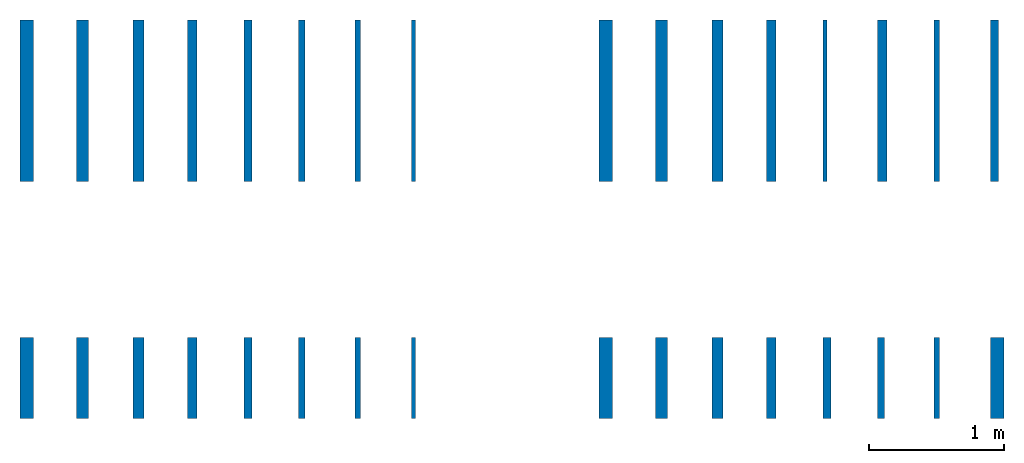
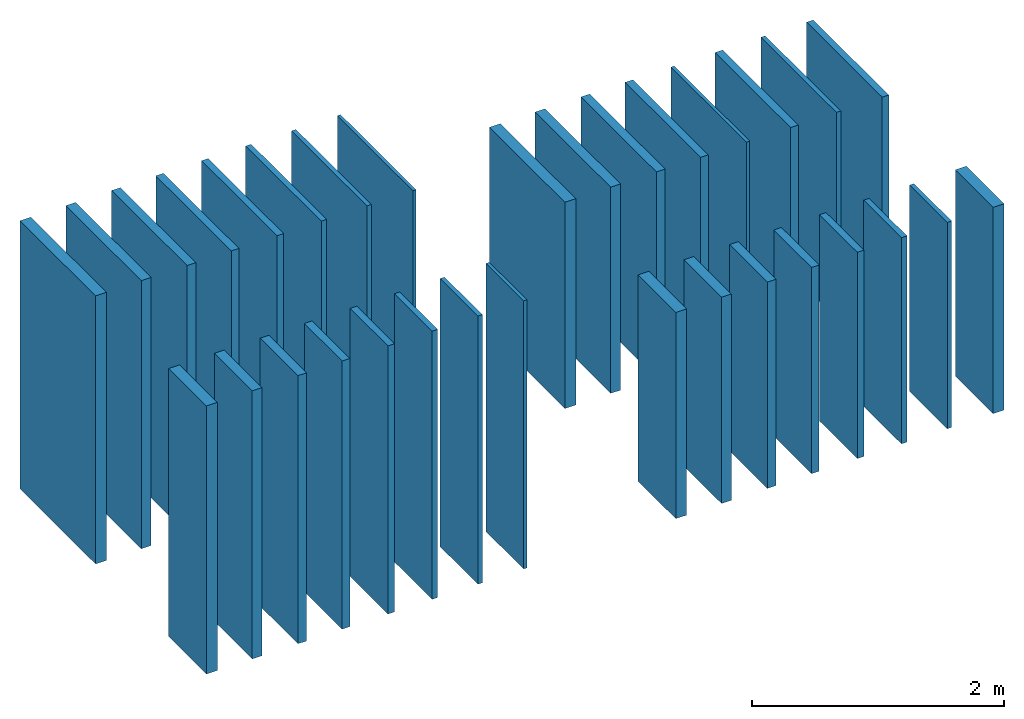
# One storey: 32 walls.
"""IFC2X3 building model written with IfcOpenShell, lengths in metres."""

from ifc_helpers import new_model, entity, si_unit, converted_unit, derived_unit, direction, frame, frame_2d, origin, place, context, subcontext, project, spatial, rectangle, extrude, material, layer, layer_set, layer_usage, type_object, element, save


model = new_model("IFC2X3")

# Units and contexts
model_context = context("Model", 3, precision=1e-05, world=origin(), true_north=direction((6.12303176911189e-17, 1.0)))
body_context = subcontext(model_context, "Body", "Model", "MODEL_VIEW")
ifc_project = project(units=[si_unit("LENGTHUNIT", "METRE"), si_unit("AREAUNIT", "SQUARE_METRE"), si_unit("VOLUMEUNIT", "CUBIC_METRE"), converted_unit("PLANEANGLEUNIT", "DEGREE", entity("IfcRatioMeasure", 0.0174532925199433), si_unit("PLANEANGLEUNIT", "RADIAN"), dimensions=[0, 0, 0, 0, 0, 0, 0]), si_unit("MASSUNIT", "GRAM", prefix="KILO"), derived_unit("MASSDENSITYUNIT", [(si_unit("MASSUNIT", "GRAM", prefix="KILO"), 1), (si_unit("LENGTHUNIT", "METRE"), -3)]), si_unit("TIMEUNIT", "SECOND"), si_unit("FREQUENCYUNIT", "HERTZ"), si_unit("THERMODYNAMICTEMPERATUREUNIT", "DEGREE_CELSIUS"), derived_unit("THERMALTRANSMITTANCEUNIT", [(si_unit("MASSUNIT", "GRAM", prefix="KILO"), 1), (si_unit("THERMODYNAMICTEMPERATUREUNIT", "KELVIN"), -1), (si_unit("TIMEUNIT", "SECOND"), -3)]), derived_unit("VOLUMETRICFLOWRATEUNIT", [(si_unit("LENGTHUNIT", "METRE"), 3), (si_unit("TIMEUNIT", "SECOND"), -1)]), si_unit("ELECTRICCURRENTUNIT", "AMPERE"), si_unit("ELECTRICVOLTAGEUNIT", "VOLT"), si_unit("POWERUNIT", "WATT"), si_unit("FORCEUNIT", "NEWTON", prefix="KILO"), si_unit("ILLUMINANCEUNIT", "LUX"), si_unit("LUMINOUSFLUXUNIT", "LUMEN"), si_unit("LUMINOUSINTENSITYUNIT", "CANDELA"), derived_unit("USERDEFINED", [(si_unit("MASSUNIT", "GRAM", prefix="KILO"), -1), (si_unit("LENGTHUNIT", "METRE"), -2), (si_unit("TIMEUNIT", "SECOND"), 3), (si_unit("LUMINOUSFLUXUNIT", "LUMEN"), 1)]), derived_unit("LINEARVELOCITYUNIT", [(si_unit("LENGTHUNIT", "METRE"), 1), (si_unit("TIMEUNIT", "SECOND"), -1)]), si_unit("PRESSUREUNIT", "PASCAL"), derived_unit("USERDEFINED", [(si_unit("LENGTHUNIT", "METRE"), -2), (si_unit("MASSUNIT", "GRAM", prefix="KILO"), 1), (si_unit("TIMEUNIT", "SECOND"), -2)])], contexts=[model_context])

# Site, building, storey
site_placement = place(None, origin())
site = spatial("IfcSite", under=ifc_project, at=site_placement, Name="Default", CompositionType="ELEMENT")
building_placement = place(site_placement, origin())
building = spatial("IfcBuilding", under=site, at=building_placement, CompositionType="ELEMENT")
storey_placement = place(building_placement, origin())
storey = spatial("IfcBuildingStorey", under=building, at=storey_placement, Name="Nivel 1", CompositionType="ELEMENT", Elevation=0.0)

# Walls
ifc_material = material(Name="VALERO Grafipol® TR-30")
ifc_layer_1 = layer(ifc_material, 0.1)
ifc_layer_set_1 = layer_set([ifc_layer_1], Name="Muro básico:Grafipol TR-30_2000x600x100mm")
ifc_layer_usage_1 = layer_usage(ifc_layer_set_1, "AXIS2", "NEGATIVE", 0.05)
wall_type_1 = type_object("IfcWallType", Name="Muro básico:Grafipol TR-30_2000x600x100mm", PredefinedType="STANDARD", material=ifc_layer_set_1)
wall_1_placement = place(storey_placement, frame((-0.269987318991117, 0.176603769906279, 0.0), z_axis=(0.0, 0.0, 1.0), x_axis=(0.0, 1.0, 0.0)))
element("IfcWallStandardCase", 1, at=wall_1_placement, inside=storey, type_object=wall_type_1, material=ifc_layer_usage_1, Name="Muro básico:Grafipol TR-30_2000x600x100mm", ObjectType="Muro básico:Grafipol TR-30_2000x600x100mm", context=body_context, shape_type="SweptSolid", body=[
    extrude(rectangle(XDim=0.6, YDim=0.1, at=frame_2d((0.3, 1.04083408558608e-17), x_axis=(-1.0, 0.0))), origin(), (0.0, 0.0, 1.0), 2.0),
])
ifc_layer_2 = layer(ifc_material, 0.09)
ifc_layer_set_2 = layer_set([ifc_layer_2], Name="Muro básico:Grafipol TR-30_2000x600x90mm")
ifc_layer_usage_2 = layer_usage(ifc_layer_set_2, "AXIS2", "NEGATIVE", 0.045)
wall_type_2 = type_object("IfcWallType", Name="Muro básico:Grafipol TR-30_2000x600x90mm", PredefinedType="STANDARD", material=ifc_layer_set_2)
wall_2_placement = place(storey_placement, frame((0.145012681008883, 0.176603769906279, 0.0), z_axis=(0.0, 0.0, 1.0), x_axis=(0.0, 1.0, 0.0)))
element("IfcWallStandardCase", 2, at=wall_2_placement, inside=storey, type_object=wall_type_2, material=ifc_layer_usage_2, Name="Muro básico:Grafipol TR-30_2000x600x90mm", ObjectType="Muro básico:Grafipol TR-30_2000x600x90mm", context=body_context, shape_type="SweptSolid", body=[
    extrude(rectangle(XDim=0.6, YDim=0.09, at=frame_2d((0.3, 0.0), x_axis=(-1.0, 0.0))), origin(), (0.0, 0.0, 1.0), 2.0),
])
ifc_layer_3 = layer(ifc_material, 0.08)
ifc_layer_set_3 = layer_set([ifc_layer_3], Name="Muro básico:Grafipol TR-30_2000x600x80mm")
ifc_layer_usage_3 = layer_usage(ifc_layer_set_3, "AXIS2", "NEGATIVE", 0.04)
wall_type_3 = type_object("IfcWallType", Name="Muro básico:Grafipol TR-30_2000x600x80mm", PredefinedType="STANDARD", material=ifc_layer_set_3)
wall_3_placement = place(storey_placement, frame((0.560012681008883, 0.176603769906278, 0.0), z_axis=(0.0, 0.0, 1.0), x_axis=(0.0, 1.0, 0.0)))
element("IfcWallStandardCase", 3, at=wall_3_placement, inside=storey, type_object=wall_type_3, material=ifc_layer_usage_3, Name="Muro básico:Grafipol TR-30_2000x600x80mm", ObjectType="Muro básico:Grafipol TR-30_2000x600x80mm", context=body_context, shape_type="SweptSolid", body=[
    extrude(rectangle(XDim=0.6, YDim=0.08, at=frame_2d((0.3, -6.93889390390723e-18), x_axis=(-1.0, 0.0))), origin(), (0.0, 0.0, 1.0), 2.0),
])
ifc_layer_4 = layer(ifc_material, 0.07)
ifc_layer_set_4 = layer_set([ifc_layer_4], Name="Muro básico:Grafipol TR-30_2000x600x70mm")
ifc_layer_usage_4 = layer_usage(ifc_layer_set_4, "AXIS2", "NEGATIVE", 0.035)
wall_type_4 = type_object("IfcWallType", Name="Muro básico:Grafipol TR-30_2000x600x70mm", PredefinedType="STANDARD", material=ifc_layer_set_4)
wall_4_placement = place(storey_placement, frame((0.960012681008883, 0.176603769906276, 0.0), z_axis=(0.0, 0.0, 1.0), x_axis=(0.0, 1.0, 0.0)))
element("IfcWallStandardCase", 4, at=wall_4_placement, inside=storey, type_object=wall_type_4, material=ifc_layer_usage_4, Name="Muro básico:Grafipol TR-30_2000x600x70mm", ObjectType="Muro básico:Grafipol TR-30_2000x600x70mm", context=body_context, shape_type="SweptSolid", body=[
    extrude(rectangle(XDim=0.6, YDim=0.0700000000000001, at=frame_2d((0.3, -6.93889390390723e-18), x_axis=(-1.0, 0.0))), origin(), (0.0, 0.0, 1.0), 2.0),
])
ifc_layer_5 = layer(ifc_material, 0.06)
ifc_layer_set_5 = layer_set([ifc_layer_5], Name="Muro básico:Grafipol TR-30_2000x600x60mm")
ifc_layer_usage_5 = layer_usage(ifc_layer_set_5, "AXIS2", "NEGATIVE", 0.03)
wall_type_5 = type_object("IfcWallType", Name="Muro básico:Grafipol TR-30_2000x600x60mm", PredefinedType="STANDARD", material=ifc_layer_set_5)
wall_5_placement = place(storey_placement, frame((1.37501268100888, 0.176603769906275, 0.0), z_axis=(0.0, 0.0, 1.0), x_axis=(0.0, 1.0, 0.0)))
element("IfcWallStandardCase", 5, at=wall_5_placement, inside=storey, type_object=wall_type_5, material=ifc_layer_usage_5, Name="Muro básico:Grafipol TR-30_2000x600x60mm", ObjectType="Muro básico:Grafipol TR-30_2000x600x60mm", context=body_context, shape_type="SweptSolid", body=[
    extrude(rectangle(XDim=0.6, YDim=0.0599999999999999, at=frame_2d((0.3, -7.28583859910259e-17), x_axis=(-1.0, 0.0))), origin(), (0.0, 0.0, 1.0), 2.0),
])
ifc_layer_6 = layer(ifc_material, 0.05)
ifc_layer_set_6 = layer_set([ifc_layer_6], Name="Muro básico:Grafipol TR-30_2000x600x50mm")
ifc_layer_usage_6 = layer_usage(ifc_layer_set_6, "AXIS2", "NEGATIVE", 0.025)
wall_type_6 = type_object("IfcWallType", Name="Muro básico:Grafipol TR-30_2000x600x50mm", PredefinedType="STANDARD", material=ifc_layer_set_6)
wall_6_placement = place(storey_placement, frame((1.77501268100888, 0.176603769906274, 0.0), z_axis=(0.0, 0.0, 1.0), x_axis=(0.0, 1.0, 0.0)))
element("IfcWallStandardCase", 6, at=wall_6_placement, inside=storey, type_object=wall_type_6, material=ifc_layer_usage_6, Name="Muro básico:Grafipol TR-30_2000x600x50mm", ObjectType="Muro básico:Grafipol TR-30_2000x600x50mm", context=body_context, shape_type="SweptSolid", body=[
    extrude(rectangle(XDim=0.6, YDim=0.05, at=frame_2d((0.3, -7.45931094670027e-17), x_axis=(-1.0, 0.0))), origin(), (0.0, 0.0, 1.0), 2.0),
])
ifc_layer_7 = layer(ifc_material, 0.04)
ifc_layer_set_7 = layer_set([ifc_layer_7], Name="Muro básico:Grafipol TR-30_2000x600x40mm")
ifc_layer_usage_7 = layer_usage(ifc_layer_set_7, "AXIS2", "NEGATIVE", 0.02)
wall_type_7 = type_object("IfcWallType", Name="Muro básico:Grafipol TR-30_2000x600x40mm", PredefinedType="STANDARD", material=ifc_layer_set_7)
wall_7_placement = place(storey_placement, frame((2.19001268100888, 0.176603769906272, 0.0), z_axis=(0.0, 0.0, 1.0), x_axis=(0.0, 1.0, 0.0)))
element("IfcWallStandardCase", 7, at=wall_7_placement, inside=storey, type_object=wall_type_7, material=ifc_layer_usage_7, Name="Muro básico:Grafipol TR-30_2000x600x40mm", ObjectType="Muro básico:Grafipol TR-30_2000x600x40mm", context=body_context, shape_type="SweptSolid", body=[
    extrude(rectangle(XDim=0.6, YDim=0.0400000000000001, at=frame_2d((0.3, -7.45931094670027e-17), x_axis=(-1.0, 0.0))), origin(), (0.0, 0.0, 1.0), 2.0),
])
ifc_layer_8 = layer(ifc_material, 0.1)
ifc_layer_set_8 = layer_set([ifc_layer_8], Name="Muro básico:Grafipol TR-30_2600x1200x100mm")
ifc_layer_usage_8 = layer_usage(ifc_layer_set_8, "AXIS2", "NEGATIVE", 0.05)
wall_type_8 = type_object("IfcWallType", Name="Muro básico:Grafipol TR-30_2600x1200x100mm", PredefinedType="STANDARD", material=ifc_layer_set_8)
wall_8_placement = place(storey_placement, frame((2.64001268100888, 0.176603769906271, 0.0), z_axis=(0.0, 0.0, 1.0), x_axis=(0.0, 1.0, 0.0)))
element("IfcWallStandardCase", 8, at=wall_8_placement, inside=storey, type_object=wall_type_8, material=ifc_layer_usage_8, Name="Muro básico:Grafipol TR-30_2600x1200x100mm", ObjectType="Muro básico:Grafipol TR-30_2600x1200x100mm", context=body_context, shape_type="SweptSolid", body=[
    extrude(rectangle(XDim=0.6, YDim=0.1, at=frame_2d((0.3, -7.63278329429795e-17), x_axis=(-1.0, 0.0))), origin(), (0.0, 0.0, 1.0), 2.0),
])
ifc_layer_usage_9 = layer_usage(ifc_layer_set_8, "AXIS2", "NEGATIVE", 0.05)
wall_9_placement = place(storey_placement, frame((-0.269987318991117, 1.93757096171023, 0.0), z_axis=(0.0, 0.0, 1.0), x_axis=(0.0, 1.0, 0.0)))
element("IfcWallStandardCase", 9, at=wall_9_placement, inside=storey, type_object=wall_type_8, material=ifc_layer_usage_9, Name="Muro básico:Grafipol TR-30_2600x1200x100mm", ObjectType="Muro básico:Grafipol TR-30_2600x1200x100mm", context=body_context, shape_type="SweptSolid", body=[
    extrude(rectangle(XDim=1.2, YDim=0.1, at=frame_2d((0.6, 2.08166817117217e-17), x_axis=(-1.0, 0.0))), origin(), (0.0, 0.0, 1.0), 2.0),
])
ifc_layer_usage_10 = layer_usage(ifc_layer_set_8, "AXIS2", "NEGATIVE", 0.05)
wall_10_placement = place(storey_placement, frame((-4.57440857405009, 1.93757096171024, 0.0), z_axis=(0.0, 0.0, 1.0), x_axis=(0.0, 1.0, 0.0)))
element("IfcWallStandardCase", 10, at=wall_10_placement, inside=storey, type_object=wall_type_8, material=ifc_layer_usage_10, Name="Muro básico:Grafipol TR-30_2600x1200x100mm", ObjectType="Muro básico:Grafipol TR-30_2600x1200x100mm", context=body_context, shape_type="SweptSolid", body=[
    extrude(rectangle(XDim=1.2, YDim=0.1, at=frame_2d((0.6, -1.49186218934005e-16), x_axis=(-1.0, 0.0))), origin(), (0.0, 0.0, 1.0), 2.6),
])
ifc_layer_9 = layer(ifc_material, 0.1)
ifc_layer_set_9 = layer_set([ifc_layer_9], Name="Muro básico:Grafipol TR-30_2600x600x100mm")
ifc_layer_usage_11 = layer_usage(ifc_layer_set_9, "AXIS2", "NEGATIVE", 0.05)
wall_type_9 = type_object("IfcWallType", Name="Muro básico:Grafipol TR-30_2600x600x100mm", PredefinedType="STANDARD", material=ifc_layer_set_9)
wall_11_placement = place(storey_placement, frame((-4.57440857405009, 0.176603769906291, 0.0), z_axis=(0.0, 0.0, 1.0), x_axis=(0.0, 1.0, 0.0)))
element("IfcWallStandardCase", 11, at=wall_11_placement, inside=storey, type_object=wall_type_9, material=ifc_layer_usage_11, Name="Muro básico:Grafipol TR-30_2600x600x100mm", ObjectType="Muro básico:Grafipol TR-30_2600x600x100mm", context=body_context, shape_type="SweptSolid", body=[
    extrude(rectangle(XDim=0.6, YDim=0.1, at=frame_2d((0.3, -7.63278329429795e-17), x_axis=(-1.0, 0.0))), origin(), (0.0, 0.0, 1.0), 2.6),
])
ifc_layer_10 = layer(ifc_material, 0.09)
ifc_layer_set_10 = layer_set([ifc_layer_10], Name="Muro básico:Grafipol TR-30_2600x600x90mm")
ifc_layer_usage_12 = layer_usage(ifc_layer_set_10, "AXIS2", "NEGATIVE", 0.045)
wall_type_10 = type_object("IfcWallType", Name="Muro básico:Grafipol TR-30_2600x600x90mm", PredefinedType="STANDARD", material=ifc_layer_set_10)
wall_12_placement = place(storey_placement, frame((-4.15940857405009, 0.176603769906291, 0.0), z_axis=(0.0, 0.0, 1.0), x_axis=(0.0, 1.0, 0.0)))
element("IfcWallStandardCase", 12, at=wall_12_placement, inside=storey, type_object=wall_type_10, material=ifc_layer_usage_12, Name="Muro básico:Grafipol TR-30_2600x600x90mm", ObjectType="Muro básico:Grafipol TR-30_2600x600x90mm", context=body_context, shape_type="SweptSolid", body=[
    extrude(rectangle(XDim=0.6, YDim=0.0900000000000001, at=frame_2d((0.3, -7.63278329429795e-17), x_axis=(-1.0, 0.0))), origin(), (0.0, 0.0, 1.0), 2.6),
])
ifc_layer_11 = layer(ifc_material, 0.08)
ifc_layer_set_11 = layer_set([ifc_layer_11], Name="Muro básico:Grafipol TR-30_2600x600x80mm")
ifc_layer_usage_13 = layer_usage(ifc_layer_set_11, "AXIS2", "NEGATIVE", 0.04)
wall_type_11 = type_object("IfcWallType", Name="Muro básico:Grafipol TR-30_2600x600x80mm", PredefinedType="STANDARD", material=ifc_layer_set_11)
wall_13_placement = place(storey_placement, frame((-3.74440857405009, 0.17660376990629, 0.0), z_axis=(0.0, 0.0, 1.0), x_axis=(0.0, 1.0, 0.0)))
element("IfcWallStandardCase", 13, at=wall_13_placement, inside=storey, type_object=wall_type_11, material=ifc_layer_usage_13, Name="Muro básico:Grafipol TR-30_2600x600x80mm", ObjectType="Muro básico:Grafipol TR-30_2600x600x80mm", context=body_context, shape_type="SweptSolid", body=[
    extrude(rectangle(XDim=0.6, YDim=0.0800000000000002, at=frame_2d((0.3, -7.63278329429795e-17), x_axis=(-1.0, 0.0))), origin(), (0.0, 0.0, 1.0), 2.6),
])
ifc_layer_12 = layer(ifc_material, 0.07)
ifc_layer_set_12 = layer_set([ifc_layer_12], Name="Muro básico:Grafipol TR-30_2600x600x70mm")
ifc_layer_usage_14 = layer_usage(ifc_layer_set_12, "AXIS2", "NEGATIVE", 0.035)
wall_type_12 = type_object("IfcWallType", Name="Muro básico:Grafipol TR-30_2600x600x70mm", PredefinedType="STANDARD", material=ifc_layer_set_12)
wall_14_placement = place(storey_placement, frame((-3.34440857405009, 0.176603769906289, 0.0), z_axis=(0.0, 0.0, 1.0), x_axis=(0.0, 1.0, 0.0)))
element("IfcWallStandardCase", 14, at=wall_14_placement, inside=storey, type_object=wall_type_12, material=ifc_layer_usage_14, Name="Muro básico:Grafipol TR-30_2600x600x70mm", ObjectType="Muro básico:Grafipol TR-30_2600x600x70mm", context=body_context, shape_type="SweptSolid", body=[
    extrude(rectangle(XDim=0.6, YDim=0.0700000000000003, at=frame_2d((0.3, -7.28583859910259e-17), x_axis=(-1.0, 0.0))), origin(), (0.0, 0.0, 1.0), 2.6),
])
ifc_layer_usage_15 = layer_usage(ifc_layer_set_12, "AXIS2", "NEGATIVE", 0.035)
wall_15_placement = place(storey_placement, frame((1.78501268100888, 1.93757096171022, 0.0), z_axis=(0.0, 0.0, 1.0), x_axis=(0.0, 1.0, 0.0)))
element("IfcWallStandardCase", 15, at=wall_15_placement, inside=storey, type_object=wall_type_12, material=ifc_layer_usage_15, Name="Muro básico:Grafipol TR-30_2600x600x70mm", ObjectType="Muro básico:Grafipol TR-30_2600x600x70mm", context=body_context, shape_type="SweptSolid", body=[
    extrude(rectangle(XDim=1.2, YDim=0.0699999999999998, at=frame_2d((0.6, -1.38777878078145e-17), x_axis=(-1.0, 0.0))), origin(), (0.0, 0.0, 1.0), 2.0),
])
ifc_layer_13 = layer(ifc_material, 0.06)
ifc_layer_set_13 = layer_set([ifc_layer_13], Name="Muro básico:Grafipol TR-30_2600x600x60mm")
ifc_layer_usage_16 = layer_usage(ifc_layer_set_13, "AXIS2", "NEGATIVE", 0.03)
wall_type_13 = type_object("IfcWallType", Name="Muro básico:Grafipol TR-30_2600x600x60mm", PredefinedType="STANDARD", material=ifc_layer_set_13)
wall_16_placement = place(storey_placement, frame((-2.92940857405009, 0.176603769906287, 0.0), z_axis=(0.0, 0.0, 1.0), x_axis=(0.0, 1.0, 0.0)))
element("IfcWallStandardCase", 16, at=wall_16_placement, inside=storey, type_object=wall_type_13, material=ifc_layer_usage_16, Name="Muro básico:Grafipol TR-30_2600x600x60mm", ObjectType="Muro básico:Grafipol TR-30_2600x600x60mm", context=body_context, shape_type="SweptSolid", body=[
    extrude(rectangle(XDim=0.6, YDim=0.0600000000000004, at=frame_2d((0.3, -7.28583859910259e-17), x_axis=(-1.0, 0.0))), origin(), (0.0, 0.0, 1.0), 2.6),
])
ifc_layer_usage_17 = layer_usage(ifc_layer_set_13, "AXIS2", "NEGATIVE", 0.03)
wall_17_placement = place(storey_placement, frame((2.62001268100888, 1.93757096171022, 0.0), z_axis=(0.0, 0.0, 1.0), x_axis=(0.0, 1.0, 0.0)))
element("IfcWallStandardCase", 17, at=wall_17_placement, inside=storey, type_object=wall_type_13, material=ifc_layer_usage_17, Name="Muro básico:Grafipol TR-30_2600x600x60mm", ObjectType="Muro básico:Grafipol TR-30_2600x600x60mm", context=body_context, shape_type="SweptSolid", body=[
    extrude(rectangle(XDim=1.2, YDim=0.0600000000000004, at=frame_2d((0.6, -1.49186218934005e-16), x_axis=(-1.0, 0.0))), origin(), (0.0, 0.0, 1.0), 2.0),
])
ifc_layer_14 = layer(ifc_material, 0.05)
ifc_layer_set_14 = layer_set([ifc_layer_14], Name="Muro básico:Grafipol TR-30_2600x600x50mm")
ifc_layer_usage_18 = layer_usage(ifc_layer_set_14, "AXIS2", "NEGATIVE", 0.025)
wall_type_14 = type_object("IfcWallType", Name="Muro básico:Grafipol TR-30_2600x600x50mm", PredefinedType="STANDARD", material=ifc_layer_set_14)
wall_18_placement = place(storey_placement, frame((-2.52940857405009, 0.176603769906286, 0.0), z_axis=(0.0, 0.0, 1.0), x_axis=(0.0, 1.0, 0.0)))
element("IfcWallStandardCase", 18, at=wall_18_placement, inside=storey, type_object=wall_type_14, material=ifc_layer_usage_18, Name="Muro básico:Grafipol TR-30_2600x600x50mm", ObjectType="Muro básico:Grafipol TR-30_2600x600x50mm", context=body_context, shape_type="SweptSolid", body=[
    extrude(rectangle(XDim=0.6, YDim=0.0500000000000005, at=frame_2d((0.3, -7.28583859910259e-17), x_axis=(-1.0, 0.0))), origin(), (0.0, 0.0, 1.0), 2.6),
])
ifc_layer_15 = layer(ifc_material, 0.04)
ifc_layer_set_15 = layer_set([ifc_layer_15], Name="Muro básico:Grafipol TR-30_2600x600x40mm")
ifc_layer_usage_19 = layer_usage(ifc_layer_set_15, "AXIS2", "NEGATIVE", 0.02)
wall_type_15 = type_object("IfcWallType", Name="Muro básico:Grafipol TR-30_2600x600x40mm", PredefinedType="STANDARD", material=ifc_layer_set_15)
wall_19_placement = place(storey_placement, frame((-2.11440857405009, 0.176603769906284, 0.0), z_axis=(0.0, 0.0, 1.0), x_axis=(0.0, 1.0, 0.0)))
element("IfcWallStandardCase", 19, at=wall_19_placement, inside=storey, type_object=wall_type_15, material=ifc_layer_usage_19, Name="Muro básico:Grafipol TR-30_2600x600x40mm", ObjectType="Muro básico:Grafipol TR-30_2600x600x40mm", context=body_context, shape_type="SweptSolid", body=[
    extrude(rectangle(XDim=0.6, YDim=0.0400000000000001, at=frame_2d((0.3, -7.45931094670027e-17), x_axis=(-1.0, 0.0))), origin(), (0.0, 0.0, 1.0), 2.6),
])
ifc_layer_16 = layer(ifc_material, 0.03)
ifc_layer_set_16 = layer_set([ifc_layer_16], Name="Muro básico:Grafipol TR-30_2600x600x30mm")
ifc_layer_usage_20 = layer_usage(ifc_layer_set_16, "AXIS2", "NEGATIVE", 0.015)
wall_type_16 = type_object("IfcWallType", Name="Muro básico:Grafipol TR-30_2600x600x30mm", PredefinedType="STANDARD", material=ifc_layer_set_16)
wall_20_placement = place(storey_placement, frame((-1.69940857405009, 0.176603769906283, 0.0), z_axis=(0.0, 0.0, 1.0), x_axis=(0.0, 1.0, 0.0)))
element("IfcWallStandardCase", 20, at=wall_20_placement, inside=storey, type_object=wall_type_16, material=ifc_layer_usage_20, Name="Muro básico:Grafipol TR-30_2600x600x30mm", ObjectType="Muro básico:Grafipol TR-30_2600x600x30mm", context=body_context, shape_type="SweptSolid", body=[
    extrude(rectangle(XDim=0.6, YDim=0.0300000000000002, at=frame_2d((0.3, -7.45931094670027e-17), x_axis=(-1.0, 0.0))), origin(), (0.0, 0.0, 1.0), 2.6),
])
ifc_layer_17 = layer(ifc_material, 0.09)
ifc_layer_set_17 = layer_set([ifc_layer_17], Name="Muro básico:Grafipol TR-30_2000x1200x90mm")
ifc_layer_usage_21 = layer_usage(ifc_layer_set_17, "AXIS2", "NEGATIVE", 0.045)
wall_type_17 = type_object("IfcWallType", Name="Muro básico:Grafipol TR-30_2000x1200x90mm", PredefinedType="STANDARD", material=ifc_layer_set_17)
wall_21_placement = place(storey_placement, frame((0.145012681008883, 1.93757096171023, 0.0), z_axis=(0.0, 0.0, 1.0), x_axis=(0.0, 1.0, 0.0)))
element("IfcWallStandardCase", 21, at=wall_21_placement, inside=storey, type_object=wall_type_17, material=ifc_layer_usage_21, Name="Muro básico:Grafipol TR-30_2000x1200x90mm", ObjectType="Muro básico:Grafipol TR-30_2000x1200x90mm", context=body_context, shape_type="SweptSolid", body=[
    extrude(rectangle(XDim=1.2, YDim=0.09, at=frame_2d((0.6, 3.46944695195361e-18), x_axis=(-1.0, 0.0))), origin(), (0.0, 0.0, 1.0), 2.0),
])
ifc_layer_18 = layer(ifc_material, 0.08)
ifc_layer_set_18 = layer_set([ifc_layer_18], Name="Muro básico:Grafipol TR-30_2000x1200x80mm")
ifc_layer_usage_22 = layer_usage(ifc_layer_set_18, "AXIS2", "NEGATIVE", 0.04)
wall_type_18 = type_object("IfcWallType", Name="Muro básico:Grafipol TR-30_2000x1200x80mm", PredefinedType="STANDARD", material=ifc_layer_set_18)
wall_22_placement = place(storey_placement, frame((0.560012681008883, 1.93757096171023, 0.0), z_axis=(0.0, 0.0, 1.0), x_axis=(0.0, 1.0, 0.0)))
element("IfcWallStandardCase", 22, at=wall_22_placement, inside=storey, type_object=wall_type_18, material=ifc_layer_usage_22, Name="Muro básico:Grafipol TR-30_2000x1200x80mm", ObjectType="Muro básico:Grafipol TR-30_2000x1200x80mm", context=body_context, shape_type="SweptSolid", body=[
    extrude(rectangle(XDim=1.2, YDim=0.08, at=frame_2d((0.6, -1.04083408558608e-17), x_axis=(-1.0, 0.0))), origin(), (0.0, 0.0, 1.0), 2.0),
])
ifc_layer_19 = layer(ifc_material, 0.07)
ifc_layer_set_19 = layer_set([ifc_layer_19], Name="Muro básico:Grafipol TR-30_2000x1200x70mm")
ifc_layer_usage_23 = layer_usage(ifc_layer_set_19, "AXIS2", "NEGATIVE", 0.035)
wall_type_19 = type_object("IfcWallType", Name="Muro básico:Grafipol TR-30_2000x1200x70mm", PredefinedType="STANDARD", material=ifc_layer_set_19)
wall_23_placement = place(storey_placement, frame((0.960012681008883, 1.93757096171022, 0.0), z_axis=(0.0, 0.0, 1.0), x_axis=(0.0, 1.0, 0.0)))
element("IfcWallStandardCase", 23, at=wall_23_placement, inside=storey, type_object=wall_type_19, material=ifc_layer_usage_23, Name="Muro básico:Grafipol TR-30_2000x1200x70mm", ObjectType="Muro básico:Grafipol TR-30_2000x1200x70mm", context=body_context, shape_type="SweptSolid", body=[
    extrude(rectangle(XDim=1.2, YDim=0.0700000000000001, at=frame_2d((0.6, -1.38777878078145e-17), x_axis=(-1.0, 0.0))), origin(), (0.0, 0.0, 1.0), 2.0),
])
ifc_layer_20 = layer(ifc_material, 0.03)
ifc_layer_set_20 = layer_set([ifc_layer_20], Name="Muro básico:Grafipol TR-30_2600x1200x30mm")
ifc_layer_usage_24 = layer_usage(ifc_layer_set_20, "AXIS2", "NEGATIVE", 0.015)
wall_type_20 = type_object("IfcWallType", Name="Muro básico:Grafipol TR-30_2600x1200x30mm", PredefinedType="STANDARD", material=ifc_layer_set_20)
wall_24_placement = place(storey_placement, frame((1.36001268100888, 1.93757096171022, 0.0), z_axis=(0.0, 0.0, 1.0), x_axis=(0.0, 1.0, 0.0)))
element("IfcWallStandardCase", 24, at=wall_24_placement, inside=storey, type_object=wall_type_20, material=ifc_layer_usage_24, Name="Muro básico:Grafipol TR-30_2600x1200x30mm", ObjectType="Muro básico:Grafipol TR-30_2600x1200x30mm", context=body_context, shape_type="SweptSolid", body=[
    extrude(rectangle(XDim=1.2, YDim=0.0300000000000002, at=frame_2d((0.6, -1.47451495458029e-17), x_axis=(-1.0, 0.0))), origin(), (0.0, 0.0, 1.0), 2.0),
])
ifc_layer_usage_25 = layer_usage(ifc_layer_set_20, "AXIS2", "NEGATIVE", 0.015)
wall_25_placement = place(storey_placement, frame((-1.69940857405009, 1.93757096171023, 0.0), z_axis=(0.0, 0.0, 1.0), x_axis=(0.0, 1.0, 0.0)))
element("IfcWallStandardCase", 25, at=wall_25_placement, inside=storey, type_object=wall_type_20, material=ifc_layer_usage_25, Name="Muro básico:Grafipol TR-30_2600x1200x30mm", ObjectType="Muro básico:Grafipol TR-30_2600x1200x30mm", context=body_context, shape_type="SweptSolid", body=[
    extrude(rectangle(XDim=1.2, YDim=0.0300000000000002, at=frame_2d((0.6, -1.47451495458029e-17), x_axis=(-1.0, 0.0))), origin(), (0.0, 0.0, 1.0), 2.6),
])
ifc_layer_21 = layer(ifc_material, 0.04)
ifc_layer_set_21 = layer_set([ifc_layer_21], Name="Muro básico:Grafipol TR-30_2000x1200x40mm")
ifc_layer_usage_26 = layer_usage(ifc_layer_set_21, "AXIS2", "NEGATIVE", 0.02)
wall_type_21 = type_object("IfcWallType", Name="Muro básico:Grafipol TR-30_2000x1200x40mm", PredefinedType="STANDARD", material=ifc_layer_set_21)
wall_26_placement = place(storey_placement, frame((2.19001268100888, 1.93757096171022, 0.0), z_axis=(0.0, 0.0, 1.0), x_axis=(0.0, 1.0, 0.0)))
element("IfcWallStandardCase", 26, at=wall_26_placement, inside=storey, type_object=wall_type_21, material=ifc_layer_usage_26, Name="Muro básico:Grafipol TR-30_2000x1200x40mm", ObjectType="Muro básico:Grafipol TR-30_2000x1200x40mm", context=body_context, shape_type="SweptSolid", body=[
    extrude(rectangle(XDim=1.2, YDim=0.0400000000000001, at=frame_2d((0.6, -1.56125112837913e-17), x_axis=(-1.0, 0.0))), origin(), (0.0, 0.0, 1.0), 2.0),
])
ifc_layer_22 = layer(ifc_material, 0.09)
ifc_layer_set_22 = layer_set([ifc_layer_22], Name="Muro básico:Grafipol TR-30_2600x1200x90mm")
ifc_layer_usage_27 = layer_usage(ifc_layer_set_22, "AXIS2", "NEGATIVE", 0.045)
wall_type_22 = type_object("IfcWallType", Name="Muro básico:Grafipol TR-30_2600x1200x90mm", PredefinedType="STANDARD", material=ifc_layer_set_22)
wall_27_placement = place(storey_placement, frame((-4.15940857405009, 1.93757096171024, 0.0), z_axis=(0.0, 0.0, 1.0), x_axis=(0.0, 1.0, 0.0)))
element("IfcWallStandardCase", 27, at=wall_27_placement, inside=storey, type_object=wall_type_22, material=ifc_layer_usage_27, Name="Muro básico:Grafipol TR-30_2600x1200x90mm", ObjectType="Muro básico:Grafipol TR-30_2600x1200x90mm", context=body_context, shape_type="SweptSolid", body=[
    extrude(rectangle(XDim=1.2, YDim=0.0900000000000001, at=frame_2d((0.6, -1.49186218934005e-16), x_axis=(-1.0, 0.0))), origin(), (0.0, 0.0, 1.0), 2.6),
])
ifc_layer_23 = layer(ifc_material, 0.08)
ifc_layer_set_23 = layer_set([ifc_layer_23], Name="Muro básico:Grafipol TR-30_2600x1200x80mm")
ifc_layer_usage_28 = layer_usage(ifc_layer_set_23, "AXIS2", "NEGATIVE", 0.04)
wall_type_23 = type_object("IfcWallType", Name="Muro básico:Grafipol TR-30_2600x1200x80mm", PredefinedType="STANDARD", material=ifc_layer_set_23)
wall_28_placement = place(storey_placement, frame((-3.74440857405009, 1.93757096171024, 0.0), z_axis=(0.0, 0.0, 1.0), x_axis=(0.0, 1.0, 0.0)))
element("IfcWallStandardCase", 28, at=wall_28_placement, inside=storey, type_object=wall_type_23, material=ifc_layer_usage_28, Name="Muro básico:Grafipol TR-30_2600x1200x80mm", ObjectType="Muro básico:Grafipol TR-30_2600x1200x80mm", context=body_context, shape_type="SweptSolid", body=[
    extrude(rectangle(XDim=1.2, YDim=0.0800000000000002, at=frame_2d((0.6, -1.49186218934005e-16), x_axis=(-1.0, 0.0))), origin(), (0.0, 0.0, 1.0), 2.6),
])
ifc_layer_24 = layer(ifc_material, 0.07)
ifc_layer_set_24 = layer_set([ifc_layer_24], Name="Muro básico:Grafipol TR-30_2600x1200x70mm")
ifc_layer_usage_29 = layer_usage(ifc_layer_set_24, "AXIS2", "NEGATIVE", 0.035)
wall_type_24 = type_object("IfcWallType", Name="Muro básico:Grafipol TR-30_2600x1200x70mm", PredefinedType="STANDARD", material=ifc_layer_set_24)
wall_29_placement = place(storey_placement, frame((-3.34440857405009, 1.93757096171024, 0.0), z_axis=(0.0, 0.0, 1.0), x_axis=(0.0, 1.0, 0.0)))
element("IfcWallStandardCase", 29, at=wall_29_placement, inside=storey, type_object=wall_type_24, material=ifc_layer_usage_29, Name="Muro básico:Grafipol TR-30_2600x1200x70mm", ObjectType="Muro básico:Grafipol TR-30_2600x1200x70mm", context=body_context, shape_type="SweptSolid", body=[
    extrude(rectangle(XDim=1.2, YDim=0.0700000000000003, at=frame_2d((0.6, -1.49186218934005e-16), x_axis=(-1.0, 0.0))), origin(), (0.0, 0.0, 1.0), 2.6),
])
ifc_layer_25 = layer(ifc_material, 0.06)
ifc_layer_set_25 = layer_set([ifc_layer_25], Name="Muro básico:Grafipol TR-30_2600x1200x60mm")
ifc_layer_usage_30 = layer_usage(ifc_layer_set_25, "AXIS2", "NEGATIVE", 0.03)
wall_type_25 = type_object("IfcWallType", Name="Muro básico:Grafipol TR-30_2600x1200x60mm", PredefinedType="STANDARD", material=ifc_layer_set_25)
wall_30_placement = place(storey_placement, frame((-2.92940857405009, 1.93757096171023, 0.0), z_axis=(0.0, 0.0, 1.0), x_axis=(0.0, 1.0, 0.0)))
element("IfcWallStandardCase", 30, at=wall_30_placement, inside=storey, type_object=wall_type_25, material=ifc_layer_usage_30, Name="Muro básico:Grafipol TR-30_2600x1200x60mm", ObjectType="Muro básico:Grafipol TR-30_2600x1200x60mm", context=body_context, shape_type="SweptSolid", body=[
    extrude(rectangle(XDim=1.2, YDim=0.0600000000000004, at=frame_2d((0.6, -1.49186218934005e-16), x_axis=(-1.0, 0.0))), origin(), (0.0, 0.0, 1.0), 2.6),
])
ifc_layer_26 = layer(ifc_material, 0.05)
ifc_layer_set_26 = layer_set([ifc_layer_26], Name="Muro básico:Grafipol TR-30_2600x1200x50mm")
ifc_layer_usage_31 = layer_usage(ifc_layer_set_26, "AXIS2", "NEGATIVE", 0.025)
wall_type_26 = type_object("IfcWallType", Name="Muro básico:Grafipol TR-30_2600x1200x50mm", PredefinedType="STANDARD", material=ifc_layer_set_26)
wall_31_placement = place(storey_placement, frame((-2.52940857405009, 1.93757096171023, 0.0), z_axis=(0.0, 0.0, 1.0), x_axis=(0.0, 1.0, 0.0)))
element("IfcWallStandardCase", 31, at=wall_31_placement, inside=storey, type_object=wall_type_26, material=ifc_layer_usage_31, Name="Muro básico:Grafipol TR-30_2600x1200x50mm", ObjectType="Muro básico:Grafipol TR-30_2600x1200x50mm", context=body_context, shape_type="SweptSolid", body=[
    extrude(rectangle(XDim=1.2, YDim=0.0500000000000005, at=frame_2d((0.6, -1.49186218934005e-16), x_axis=(-1.0, 0.0))), origin(), (0.0, 0.0, 1.0), 2.6),
])
ifc_layer_27 = layer(ifc_material, 0.04)
ifc_layer_set_27 = layer_set([ifc_layer_27], Name="Muro básico:Grafipol TR-30_2600x1200x40mm")
ifc_layer_usage_32 = layer_usage(ifc_layer_set_27, "AXIS2", "NEGATIVE", 0.02)
wall_type_27 = type_object("IfcWallType", Name="Muro básico:Grafipol TR-30_2600x1200x40mm", PredefinedType="STANDARD", material=ifc_layer_set_27)
wall_32_placement = place(storey_placement, frame((-2.11440857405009, 1.93757096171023, 0.0), z_axis=(0.0, 0.0, 1.0), x_axis=(0.0, 1.0, 0.0)))
element("IfcWallStandardCase", 32, at=wall_32_placement, inside=storey, type_object=wall_type_27, material=ifc_layer_usage_32, Name="Muro básico:Grafipol TR-30_2600x1200x40mm", ObjectType="Muro básico:Grafipol TR-30_2600x1200x40mm", context=body_context, shape_type="SweptSolid", body=[
    extrude(rectangle(XDim=1.2, YDim=0.0400000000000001, at=frame_2d((0.6, -1.56125112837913e-17), x_axis=(-1.0, 0.0))), origin(), (0.0, 0.0, 1.0), 2.6),
])

save(model, "model.ifc")
